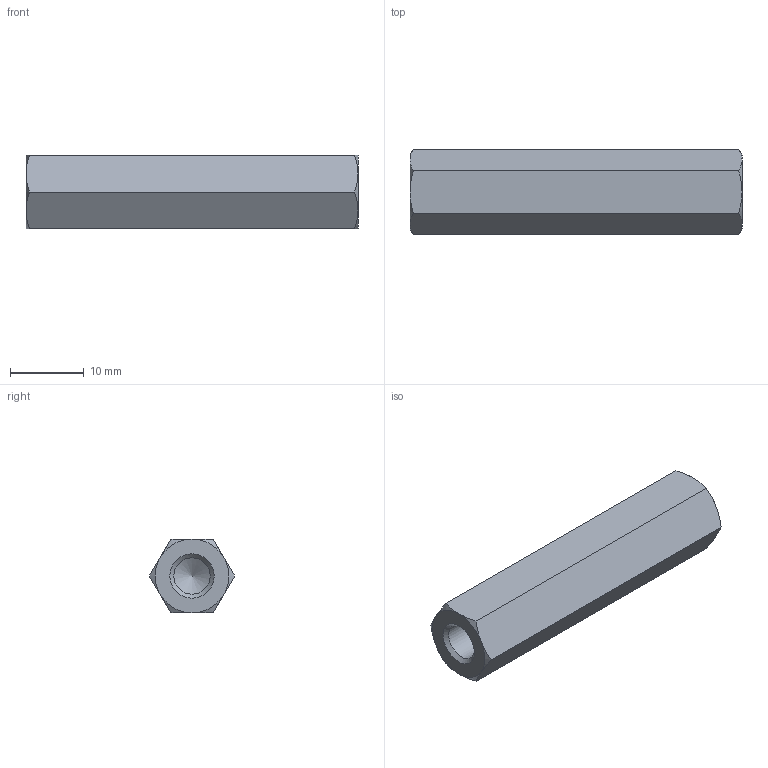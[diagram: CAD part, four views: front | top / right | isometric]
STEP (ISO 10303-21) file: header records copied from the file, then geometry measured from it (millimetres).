
FILE_DESCRIPTION( ( 'STEP AP203' ), '1' );
FILE_NAME( 'C:/Temp/Ganter_Step_05_03_2020/data/3_2/gn6220/gn6220_ni/Stainless Steel-Spacer GN 6220-NI-M6-45-A.stp', '2020-03-13T05:43:03', ( 'License CC BY-ND 4.0' ), ( 'CADENAS' ), ' ', 'PARTsolutions', ' ' );
FILE_SCHEMA( ( 'CONFIG_CONTROL_DESIGN' ) );
Length unit declared in the file: millimetre
Products named in the file (1): _Stainless Steel-Spacer GN 6220-NI-M6-45-A
Bounding box: 45 x 11.55 x 10 mm (x, y, z)
Volume: 3222 mm3; surface area: 2249.5 mm2
Topology: 1 solids, 1 shells, 26 faces, 57 edges, 33 vertices
Faces by surface type: cone 16, plane 8, cylinder 2
Full cylindrical faces by diameter (mm): 4.917 x2
Entity records: 766 total; most frequent: CARTESIAN_POINT 227, DIRECTION 96, ORIENTED_EDGE 96, EDGE_CURVE 48, AXIS2_PLACEMENT_3D 45, EDGE_LOOP 32, VERTEX_POINT 32, FACE_OUTER_BOUND 28
